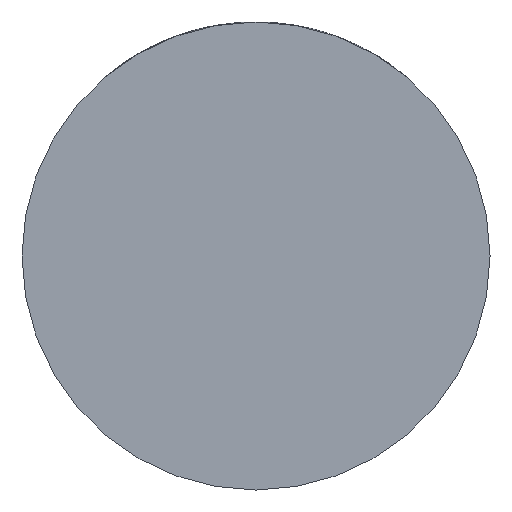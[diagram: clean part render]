
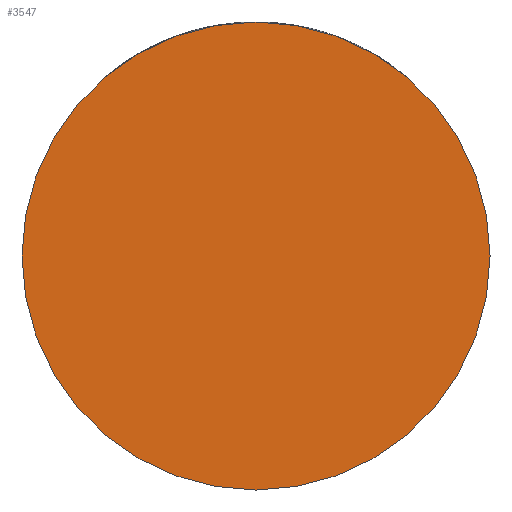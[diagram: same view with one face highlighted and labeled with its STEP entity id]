
A CAD part, front view. The second image highlights one B-rep face of the part: STEP entity #3547.
In plain terms, the highlighted planar face has unit normal (0, -1, 0).
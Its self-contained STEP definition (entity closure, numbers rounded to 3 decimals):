
#307 = AXIS2_PLACEMENT_3D ( 'NONE', #1291, #2966, #3381 ) ;
#462 = VERTEX_POINT ( 'NONE', #1143 ) ;
#475 = CARTESIAN_POINT ( 'NONE',  ( 0., -36., 0. ) ) ;
#666 = CIRCLE ( 'NONE', #1689, 39. ) ;
#845 = FACE_OUTER_BOUND ( 'NONE', #2553, .T. ) ;
#882 = EDGE_CURVE ( 'NONE', #462, #3749, #666, .T. ) ;
#1042 = EDGE_CURVE ( 'NONE', #3749, #462, #1325, .T. ) ;
#1143 = CARTESIAN_POINT ( 'NONE',  ( 39., -36., 0. ) ) ;
#1291 = CARTESIAN_POINT ( 'NONE',  ( 0., -36., 0. ) ) ;
#1325 = CIRCLE ( 'NONE', #307, 39. ) ;
#1532 = DIRECTION ( 'NONE',  ( 1., 0., 0. ) ) ;
#1689 = AXIS2_PLACEMENT_3D ( 'NONE', #2816, #1787, #2410 ) ;
#1787 = DIRECTION ( 'NONE',  ( 0., -1., 0. ) ) ;
#2357 = ORIENTED_EDGE ( 'NONE', *, *, #882, .T. ) ;
#2410 = DIRECTION ( 'NONE',  ( 1., 0., 0. ) ) ;
#2553 = EDGE_LOOP ( 'NONE', ( #3355, #2357 ) ) ;
#2566 = CARTESIAN_POINT ( 'NONE',  ( -39., -36., 0. ) ) ;
#2816 = CARTESIAN_POINT ( 'NONE',  ( 0., -36., 0. ) ) ;
#2949 = DIRECTION ( 'NONE',  ( 0., -1., 0. ) ) ;
#2966 = DIRECTION ( 'NONE',  ( 0., -1., 0. ) ) ;
#3355 = ORIENTED_EDGE ( 'NONE', *, *, #1042, .T. ) ;
#3381 = DIRECTION ( 'NONE',  ( 1., 0., 0. ) ) ;
#3547 = ADVANCED_FACE ( 'NONE', ( #845 ), #4030, .T. ) ;
#3691 = AXIS2_PLACEMENT_3D ( 'NONE', #475, #2949, #1532 ) ;
#3749 = VERTEX_POINT ( 'NONE', #2566 ) ;
#4030 = PLANE ( 'NONE',  #3691 ) ;
